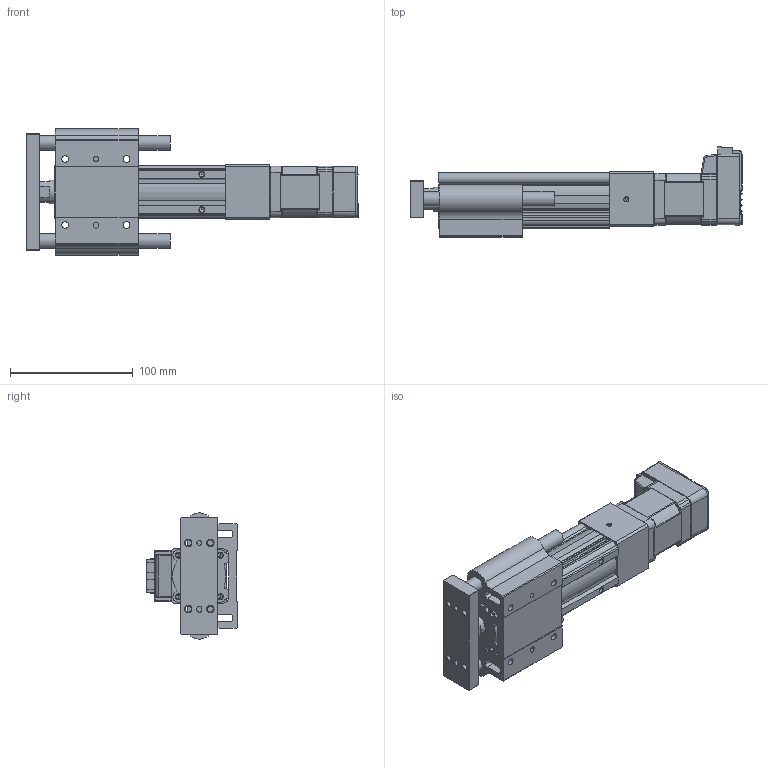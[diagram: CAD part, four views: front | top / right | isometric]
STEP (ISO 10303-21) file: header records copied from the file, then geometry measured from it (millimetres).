
FILE_DESCRIPTION (( 'STEP AP214' ), '1' );
FILE_NAME ('LEYG3(+)-25MDNM1□-50-17L.STEP', '2023-04-10T08:23:47', ( '' ), ( '' ), 'SwSTEP 2.0', 'SolidWorks 2019', '' );
FILE_SCHEMA (( 'AUTOMOTIVE_DESIGN' ));
Length unit declared in the file: millimetre
Products named in the file (6): LEYG3(+)-25MDNM1□-50-17L; LEYG3(+)-25□DNM1_MOTOR Flange; LEYG3(+)-25MNM1?_ROD_50; LEYG3(+)-25NM1?_BODY_50; CM3(+)-17L50A; LEYG3(+)-25MNM1□_ATTACH_50
Assembly tree (5 placements, depth 2):
  LEYG3(+)-25MDNM1□-50-17L
    LEYG3(+)-25NM1?_BODY_50
    LEYG3(+)-25MNM1?_ROD_50
    LEYG3(+)-25MNM1□_ATTACH_50
    LEYG3(+)-25□DNM1_MOTOR Flange
    CM3(+)-17L50A
Bounding box: 270.8 x 73.55 x 103 mm (x, y, z)
Volume: 611640.9 mm3; surface area: 138686.7 mm2
Topology: 5 solids, 5 shells, 936 faces, 2384 edges, 1501 vertices
Faces by surface type: plane 499, cylinder 272, cone 86, bspline 29, torus 29, sphere 21
Full cylindrical faces by diameter (mm): 2.5 x4, 3.5 x4, 4 x2, 4.2 x2, 4.9 x4, 5 x1, 5.4 x4, 8 x1, 11 x1, 12 x2, 22 x1, 33 x1
Entity records: 37797 total; most frequent: CARTESIAN_POINT 6834, ORIENTED_EDGE 4612, DIRECTION 4473, EDGE_CURVE 2306, AXIS2_PLACEMENT_3D 1494, VERTEX_POINT 1490, LINE 1485, VECTOR 1485
